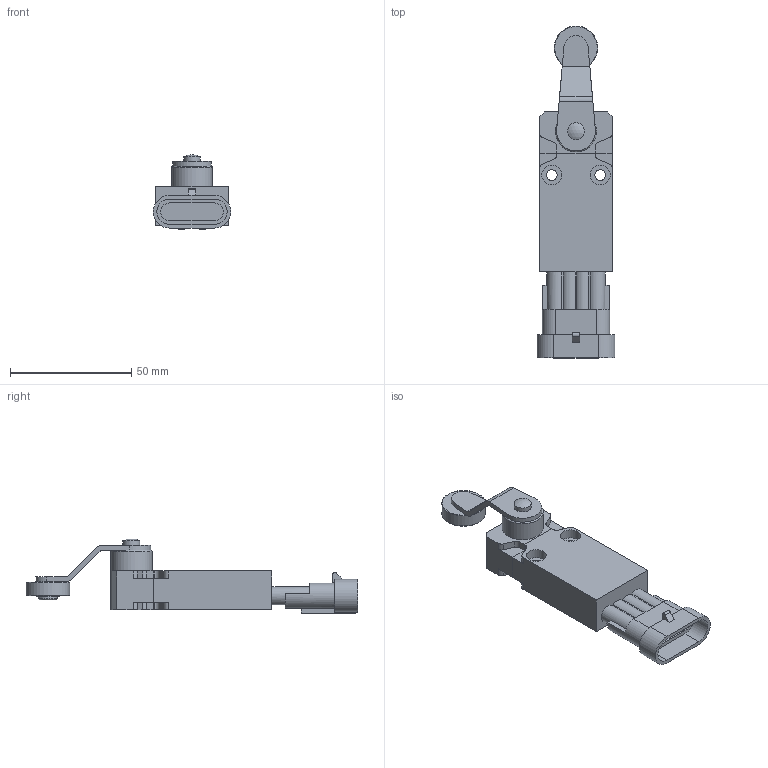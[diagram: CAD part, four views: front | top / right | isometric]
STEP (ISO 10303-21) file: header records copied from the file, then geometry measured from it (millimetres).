
FILE_DESCRIPTION(/* description */ (''),/* implementation_level */ '2;1');
FILE_NAME(/* name */ 'C:\Users\servizio.tecnico\Desktop\CADENAS\3D\EP1_STP\STP_EP1_G45A.stp',/* time_stamp */ '2017-09-04T10:09:20+02:00',/* author */ ('servizio.tecnico'),/* organization */ (''),/* preprocessor_version */ 'ST-DEVELOPER v16.1',/* originating_system */ 'Autodesk Inventor 2016',/* authorisation */ '');
FILE_SCHEMA (('AUTOMOTIVE_DESIGN { 1 0 10303 214 3 1 1 }'));
Length unit declared in the file: millimetre
Products named in the file (3): Product; EP1G45-A; BASE ASSI 
Assembly tree (2 placements, depth 3):
  BASE ASSI 
    EP1G45-A
      Product
Bounding box: 32 x 137 x 30.78 mm (x, y, z)
Volume: 40213.9 mm3; surface area: 15817.3 mm2
Topology: 4 solids, 4 shells, 174 faces, 451 edges, 299 vertices
Faces by surface type: plane 108, cylinder 61, torus 3, cone 1, sphere 1
Full cylindrical faces by diameter (mm): 4.4 x2, 6 x2, 7 x1, 8 x1, 8.2 x4, 9.5 x2, 17 x1, 18 x1
Entity records: 5373 total; most frequent: DIRECTION 916, CARTESIAN_POINT 899, ORIENTED_EDGE 854, EDGE_CURVE 427, AXIS2_PLACEMENT_3D 310, LINE 296, VECTOR 296, VERTEX_POINT 293
